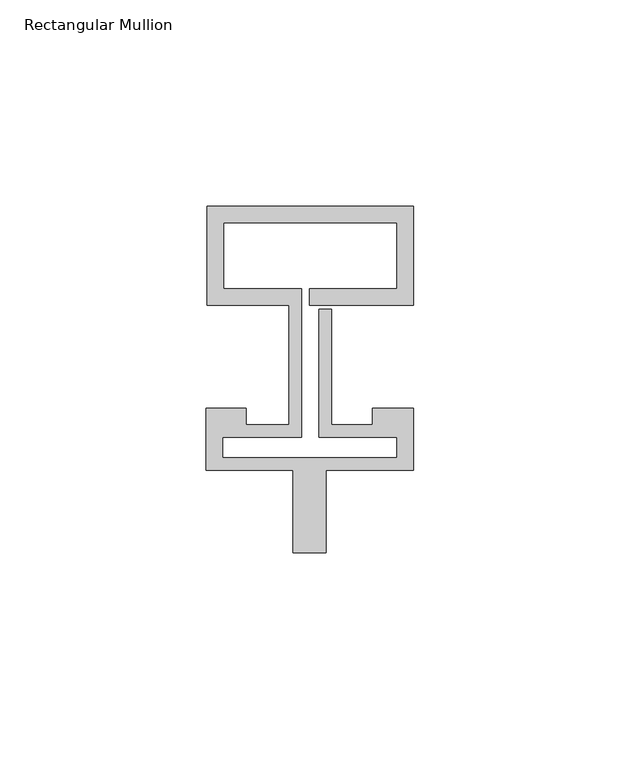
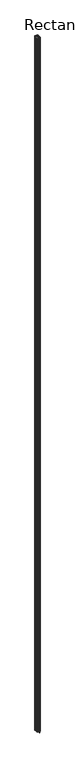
"""IFC4 building model written with IfcOpenShell, lengths in millimetres: member geometry, Rectangular Mullion : Reynaers_CW-50_Mullion-Transom_Horizontal_23.9mm_Facecap-06A."""

from ifc_helpers import new_model, si_unit, frame, origin, place, context, project, spatial, polyline, outline, extrude, source, transform, mapped, element, save


def rectangular_mullion_9a702a02(model_context):
    return source(origin(), model_context, "Body", "SweptSolid", [
        extrude(outline(polyline([(-24.8004059, 36.4), (25.1995941, 36.4), (25.1995941, 12.5), (0.0, 12.5), (0.0, 16.5), (21.1995941, 16.5), (21.1995941, 32.4), (-20.8004059, 32.4), (-20.8004059, 16.5), (-1.9004059, 16.5), (-1.9004059, -19.5), (-20.994845, -19.5), (-20.994845, -24.4191338), (21.1995941, -24.4191338), (21.1995941, -19.5), (2.2995941, -19.5), (2.2995941, 11.5), (5.2995941, 11.5), (5.2995941, -16.5), (15.2996495, -16.5), (15.2996495, -12.5), (25.1995941, -12.5), (25.1995941, -27.5), (4.004855, -27.5), (4.004855, -47.5), (-3.995145, -47.5), (-3.995145, -27.5), (-24.994845, -27.5), (-24.994845, -12.5), (-15.2996495, -12.5), (-15.2996495, -16.5), (-4.9004059, -16.5), (-4.9004059, 12.5), (-24.8004059, 12.5), (-24.8004059, 36.4)])), frame((0.0, 0.0, -12000.0), z_axis=(0.0, 0.0, 1.0), x_axis=(1.0, 0.0, 0.0)), (0.0, 0.0, 1.0), 12000.0),
    ])


if __name__ == "__main__":
    model = new_model("IFC4")
    model_context = context("Model", 3, world=origin())
    ifc_project = project(units=[si_unit("LENGTHUNIT", "METRE", prefix="MILLI")], contexts=[model_context])
    site = spatial("IfcSite", under=ifc_project)
    building = spatial("IfcBuilding", under=site)
    placement = place(None, origin())
    rectangular_mullion_shape = rectangular_mullion_9a702a02(model_context)
    element("IfcMember", 1, ObjectType="Rectangular Mullion : Reynaers_CW-50_Mullion-Transom_Horizontal_23.9mm_Facecap-06A", at=placement, inside=building, context=model_context, shape_type="MappedRepresentation", body=[
        mapped(rectangular_mullion_shape, transform((0.0, 0.0, 0.0), x_axis=(1.0, 0.0, 0.0), y_axis=(0.0, 1.0, 0.0), z_axis=(0.0, 0.0, 1.0))),
    ])
    save(model, "model.ifc")
